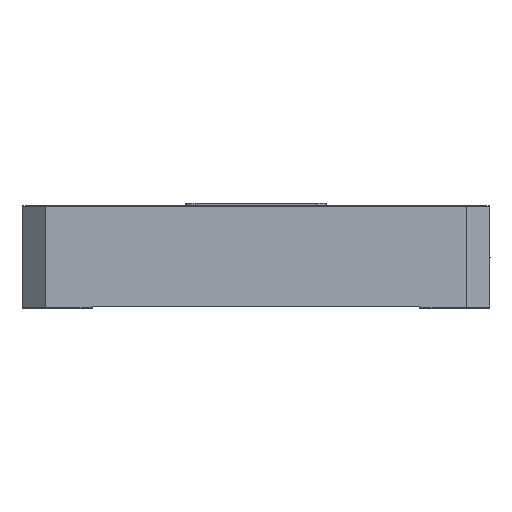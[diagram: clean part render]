
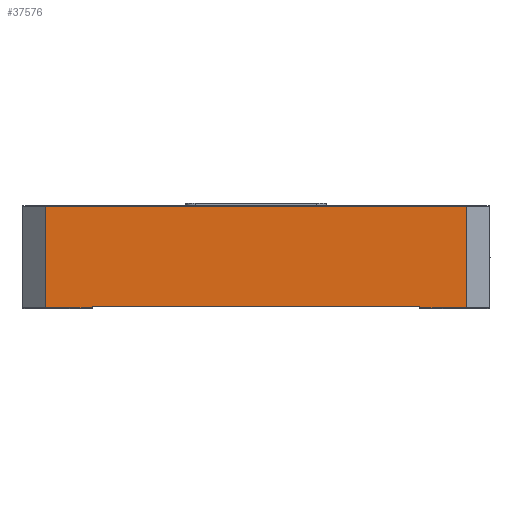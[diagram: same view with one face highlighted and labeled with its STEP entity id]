
A CAD part, left-side view. The second image highlights one B-rep face of the part: STEP entity #37576.
In plain terms, the highlighted planar face has unit normal (-1, 0, 0).
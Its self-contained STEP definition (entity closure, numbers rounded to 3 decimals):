
#222 = LINE ( 'NONE', #41883, #18487 ) ;
#1692 = LINE ( 'NONE', #26378, #23798 ) ;
#1895 = DIRECTION ( 'NONE',  ( 0., 0., 1. ) ) ;
#2214 = DIRECTION ( 'NONE',  ( 0., -1., 0. ) ) ;
#2392 = VECTOR ( 'NONE', #2214, 1000. ) ;
#3118 = CARTESIAN_POINT ( 'NONE',  ( -50.8, 38.533, 88.45 ) ) ;
#7245 = CARTESIAN_POINT ( 'NONE',  ( -50.8, 38.533, 110.05 ) ) ;
#7464 = DIRECTION ( 'NONE',  ( 0., -1., 0. ) ) ;
#7934 = VERTEX_POINT ( 'NONE', #22367 ) ;
#9879 = VERTEX_POINT ( 'NONE', #34661 ) ;
#9958 = DIRECTION ( 'NONE',  ( 0., -1., 0. ) ) ;
#10024 = LINE ( 'NONE', #50261, #41256 ) ;
#10289 = EDGE_CURVE ( 'NONE', #9879, #62905, #24683, .T. ) ;
#10462 = CARTESIAN_POINT ( 'NONE',  ( -50.8, -41.467, 88.75 ) ) ;
#10869 = DIRECTION ( 'NONE',  ( 0., -1., 0. ) ) ;
#11691 = CARTESIAN_POINT ( 'NONE',  ( -50.8, -51.467, 88.45 ) ) ;
#12471 = EDGE_CURVE ( 'NONE', #56182, #19232, #1692, .T. ) ;
#12724 = DIRECTION ( 'NONE',  ( 0., 1., 0. ) ) ;
#15711 = VERTEX_POINT ( 'NONE', #3118 ) ;
#16437 = VERTEX_POINT ( 'NONE', #10462 ) ;
#18109 = FACE_OUTER_BOUND ( 'NONE', #41178, .T. ) ;
#18487 = VECTOR ( 'NONE', #12724, 1000. ) ;
#18886 = EDGE_CURVE ( 'NONE', #15711, #62905, #29013, .T. ) ;
#19232 = VERTEX_POINT ( 'NONE', #25111 ) ;
#19423 = VECTOR ( 'NONE', #58461, 1000. ) ;
#19714 = LINE ( 'NONE', #62919, #37290 ) ;
#20866 = DIRECTION ( 'NONE',  ( -1., 0., 0. ) ) ;
#21882 = ORIENTED_EDGE ( 'NONE', *, *, #12471, .T. ) ;
#22014 = CARTESIAN_POINT ( 'NONE',  ( -50.8, 43.533, 88.45 ) ) ;
#22367 = CARTESIAN_POINT ( 'NONE',  ( -50.8, -41.467, 88.45 ) ) ;
#23798 = VECTOR ( 'NONE', #59650, 1000. ) ;
#24609 = ORIENTED_EDGE ( 'NONE', *, *, #10289, .F. ) ;
#24683 = LINE ( 'NONE', #39524, #19423 ) ;
#24814 = CARTESIAN_POINT ( 'NONE',  ( -50.8, 43.533, 88.75 ) ) ;
#25111 = CARTESIAN_POINT ( 'NONE',  ( -50.8, -51.467, 110.05 ) ) ;
#26119 = LINE ( 'NONE', #41969, #62693 ) ;
#26378 = CARTESIAN_POINT ( 'NONE',  ( -50.8, -51.467, 248.671 ) ) ;
#29013 = LINE ( 'NONE', #22014, #2392 ) ;
#32239 = ORIENTED_EDGE ( 'NONE', *, *, #50051, .T. ) ;
#34661 = CARTESIAN_POINT ( 'NONE',  ( -50.8, 28.533, 88.75 ) ) ;
#35551 = VECTOR ( 'NONE', #9958, 1000. ) ;
#36399 = VERTEX_POINT ( 'NONE', #7245 ) ;
#37290 = VECTOR ( 'NONE', #39507, 1000. ) ;
#37576 = ADVANCED_FACE ( 'NONE', ( #18109 ), #62840, .T. ) ;
#38062 = EDGE_CURVE ( 'NONE', #9879, #16437, #39341, .T. ) ;
#38443 = ORIENTED_EDGE ( 'NONE', *, *, #45827, .T. ) ;
#39341 = LINE ( 'NONE', #24814, #35551 ) ;
#39507 = DIRECTION ( 'NONE',  ( 0., 0., -1. ) ) ;
#39524 = CARTESIAN_POINT ( 'NONE',  ( -50.8, 28.533, 88.25 ) ) ;
#40050 = CARTESIAN_POINT ( 'NONE',  ( -50.8, 43.533, 248.671 ) ) ;
#41178 = EDGE_LOOP ( 'NONE', ( #21882, #38443, #32239, #62611, #24609, #62006, #47256, #44664 ) ) ;
#41256 = VECTOR ( 'NONE', #1895, 1000. ) ;
#41883 = CARTESIAN_POINT ( 'NONE',  ( -50.8, -6.467, 110.05 ) ) ;
#41969 = CARTESIAN_POINT ( 'NONE',  ( -50.8, 43.533, 88.45 ) ) ;
#44664 = ORIENTED_EDGE ( 'NONE', *, *, #45253, .T. ) ;
#45093 = CARTESIAN_POINT ( 'NONE',  ( -50.8, 28.533, 88.45 ) ) ;
#45253 = EDGE_CURVE ( 'NONE', #7934, #56182, #26119, .T. ) ;
#45827 = EDGE_CURVE ( 'NONE', #19232, #36399, #222, .T. ) ;
#46437 = AXIS2_PLACEMENT_3D ( 'NONE', #40050, #20866, #10869 ) ;
#47256 = ORIENTED_EDGE ( 'NONE', *, *, #59044, .F. ) ;
#50051 = EDGE_CURVE ( 'NONE', #36399, #15711, #19714, .T. ) ;
#50261 = CARTESIAN_POINT ( 'NONE',  ( -50.8, -41.467, 88.25 ) ) ;
#56182 = VERTEX_POINT ( 'NONE', #11691 ) ;
#58461 = DIRECTION ( 'NONE',  ( 0., 0., -1. ) ) ;
#59044 = EDGE_CURVE ( 'NONE', #7934, #16437, #10024, .T. ) ;
#59650 = DIRECTION ( 'NONE',  ( 0., 0., 1. ) ) ;
#62006 = ORIENTED_EDGE ( 'NONE', *, *, #38062, .T. ) ;
#62611 = ORIENTED_EDGE ( 'NONE', *, *, #18886, .T. ) ;
#62693 = VECTOR ( 'NONE', #7464, 1000. ) ;
#62840 = PLANE ( 'NONE',  #46437 ) ;
#62905 = VERTEX_POINT ( 'NONE', #45093 ) ;
#62919 = CARTESIAN_POINT ( 'NONE',  ( -50.8, 38.533, 248.671 ) ) ;
